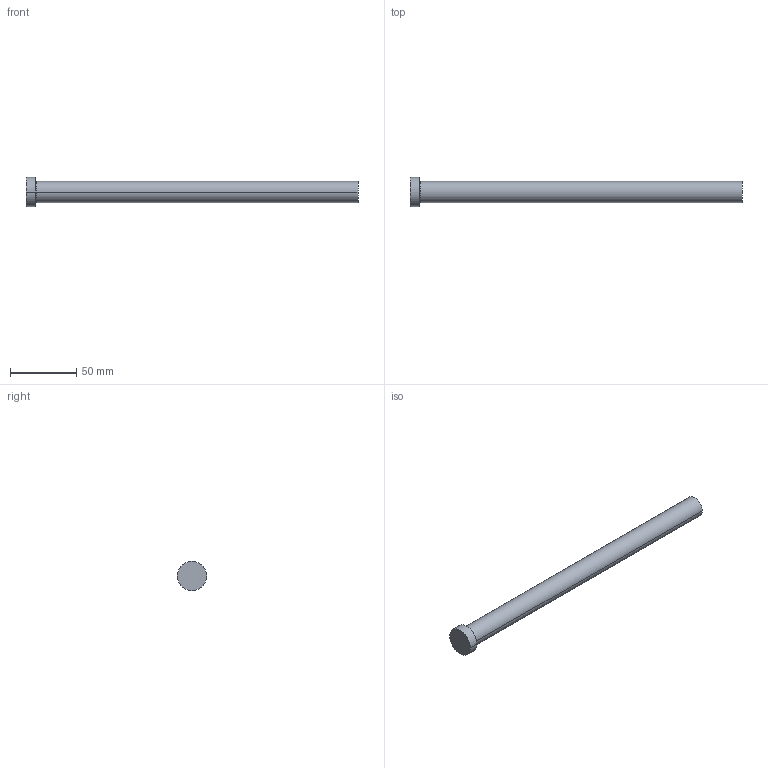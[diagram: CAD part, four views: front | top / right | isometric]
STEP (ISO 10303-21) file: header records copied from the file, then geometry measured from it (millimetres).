
FILE_DESCRIPTION (( 'STEP AP214' ), '1' );
FILE_NAME ('A-16x250.STEP', '2020-05-29T16:19:09', ( 'August' ), ( '' ), 'SwSTEP 2.0', 'SolidWorks 2018', '' );
FILE_SCHEMA (( 'AUTOMOTIVE_DESIGN' ));
Length unit declared in the file: millimetre
Products named in the file (1): A-16x250
Bounding box: 250 x 22 x 22 mm (x, y, z)
Volume: 51526 mm3; surface area: 13441.6 mm2
Topology: 1 solids, 1 shells, 9 faces, 16 edges, 10 vertices
Faces by surface type: cylinder 4, plane 3, torus 2
Entity records: 260 total; most frequent: DIRECTION 48, CARTESIAN_POINT 36, ORIENTED_EDGE 32, AXIS2_PLACEMENT_3D 22, EDGE_CURVE 16, CIRCLE 12, EDGE_LOOP 10, VERTEX_POINT 10
